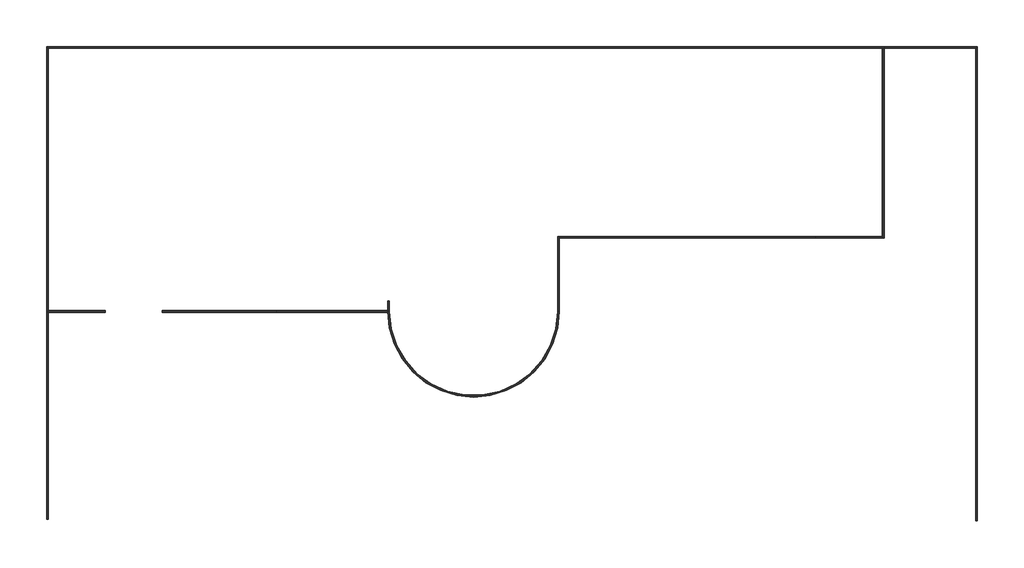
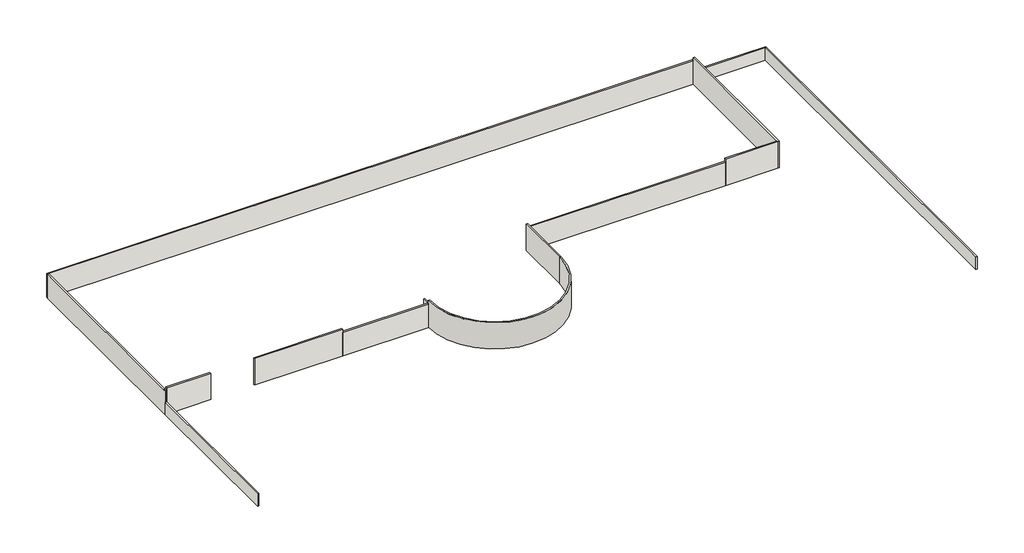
# One storey, incomplete: 14 walls.
"""IFC4 building model written with IfcOpenShell, lengths in millimetres."""

from ifc_helpers import new_model, si_unit, frame, origin, place, context, project, spatial, polyline, circle_curve, outline, extrude, faceted_brep, element, save
from ifc_brep_helpers import plane_surface, cylinder_surface, revolved_surface, advanced_brep

model = new_model("IFC4")

# Units and contexts
model_context = context("Model", 3, world=origin())
ifc_project = project(units=[si_unit("LENGTHUNIT", "METRE", prefix="MILLI")], contexts=[model_context])

# Site, building, storey
site = spatial("IfcSite", under=ifc_project)
building = spatial("IfcBuilding", under=site)
storey = spatial("IfcBuildingStorey", under=building, Name="a-t fdn", Elevation=-5638.8)

# Walls
placement = place(None, origin())
element("IfcWall", 1, ObjectType="Generic - 12\"", at=placement, inside=storey, context=model_context, shape_type="Brep", body=[
    faceted_brep([(-174759.290902, 48022.0071029, -5638.8), (-174454.490902, 48022.0071029, -5638.8), (-40647.290902, 48022.0071029, -5638.8), (-40342.490902, 48022.0071029, -5638.8), (-40342.490902, 48022.0071029, -457.2), (-40647.290902, 48022.0071029, -457.2), (-174454.490902, 48022.0071029, -457.2), (-174759.290902, 48022.0071029, -457.2), (-174759.290902, 48326.8071029, -5638.8), (-174759.290902, 48326.8071029, -457.2), (-40647.290902, 48326.8071029, -457.2), (-40342.490902, 48326.8071029, -457.2), (-40342.490902, 48326.8071029, -2895.6), (-40342.490902, 48326.8071029, -5638.8)], [[[0, 1, 2, 3, 4, 5, 6, 7]], [[8, 9, 10, 11, 12, 13]], [[3, 2, 1, 0, 8, 13]], [[4, 3, 13, 12, 11]], [[0, 7, 9, 8]], [[5, 4, 11, 10]], [[7, 6, 5, 10, 9]]]),
])
element("IfcWall", 2, ObjectType="Generic - 12\"", at=placement, inside=storey, context=model_context, shape_type="Brep", body=[
    faceted_brep([(-40647.290902, 48022.0071029, -5638.8), (-40647.290902, 17846.8071029, -5638.8), (-40647.290902, 17542.0071029, -5638.8), (-40647.290902, 17542.0071029, 152.4), (-40647.290902, 17846.8071029, 152.4), (-40647.290902, 48022.0071029, 152.4), (-40342.490902, 48022.0071029, -5638.8), (-40342.490902, 48022.0071029, -457.2), (-40342.490902, 48022.0071029, 152.4), (-40342.490902, 17542.0071029, 152.4), (-40342.490902, 17542.0071029, -5638.8)], [[[0, 1, 2, 3, 4, 5]], [[6, 7, 8, 9, 10]], [[2, 1, 0, 6, 10]], [[5, 4, 3, 9, 8]], [[3, 2, 10, 9]], [[0, 5, 8, 7, 6]]]),
])
element("IfcWall", 3, ObjectType="Generic - 12\"", at=placement, inside=storey, context=model_context, shape_type="Brep", body=[
    faceted_brep([(-174759.290902, 48022.0071029, -5638.8), (-174759.290902, 5654.8071029, -5638.8), (-174759.290902, 5654.8071029, -2895.6), (-174759.290902, 5654.8071029, -152.4), (-174759.290902, 5959.6071029, -152.4), (-174759.290902, 5959.6071029, -457.2), (-174759.290902, 48022.0071029, -457.2), (-174454.490902, 48022.0071029, -5638.8), (-174454.490902, 48022.0071029, -457.2), (-174454.490902, 5959.6071029, -457.2), (-174454.490902, 5959.6071029, -152.4), (-174454.490902, 5654.8071029, -152.4), (-174454.490902, 5654.8071029, -5638.8), (-174454.490902, 5959.6071029, -5638.8)], [[[0, 1, 2, 3, 4, 5, 6]], [[7, 8, 9, 10, 11, 12, 13]], [[1, 0, 7, 13, 12]], [[3, 2, 1, 12, 11]], [[0, 6, 8, 7]], [[4, 3, 11, 10]], [[4, 10, 9, 5]], [[6, 5, 9, 8]]]),
])
element("IfcWall", 4, ObjectType="Generic - 12\"", at=placement, inside=storey, context=model_context, shape_type="Brep", body=[
    faceted_brep([(-165310.490902, 5959.6071029, -5638.8), (-174454.490902, 5959.6071029, -5638.8), (-174454.490902, 5959.6071029, -457.2), (-174454.490902, 5959.6071029, -152.4), (-174454.490902, 5959.6071029, 152.4), (-165615.290902, 5959.6071029, 152.4), (-165310.490902, 5959.6071029, 152.4), (-165310.490902, 5959.6071029, -152.4), (-165310.490902, 5654.8071029, -5638.8), (-165310.490902, 5654.8071029, -2590.8), (-165310.490902, 5654.8071029, 138.8728072), (-165310.490902, 5654.8071029, 152.4), (-174454.490902, 5654.8071029, 152.4), (-174454.490902, 5654.8071029, -152.4), (-174454.490902, 5654.8071029, -5638.8)], [[[0, 1, 2, 3, 4, 5, 6, 7]], [[8, 9, 10, 11, 12, 13, 14]], [[1, 0, 8, 14]], [[6, 5, 4, 12, 11]], [[0, 7, 6, 11, 10, 9, 8]], [[4, 3, 2, 1, 14, 13, 12]]]),
])
element("IfcWall", 5, ObjectType="Generic - 12\"", at=placement, inside=storey, context=model_context, shape_type="Brep", body=[
    faceted_brep([(-156166.490902, 5654.8071029, -5638.8), (-137878.490902, 5654.8071029, -5638.8), (-137878.490902, 5654.8071029, -2590.8), (-137878.490902, 5654.8071029, 138.8728072), (-137878.490902, 5654.8071029, 152.4), (-156166.490902, 5654.8071029, 152.4), (-156166.490902, 5959.6071029, -5638.8), (-156166.490902, 5959.6071029, -2590.8), (-156166.490902, 5959.6071029, 152.4), (-137878.490902, 5959.6071029, 152.4), (-137878.490902, 5959.6071029, -457.2), (-137878.490902, 5959.6071029, -5638.8)], [[[0, 1, 2, 3, 4, 5]], [[6, 7, 8, 9, 10, 11]], [[1, 0, 6, 11]], [[5, 4, 9, 8]], [[4, 3, 2, 1, 11, 10, 9]], [[0, 5, 8, 7, 6]]]),
])
element("IfcWall", 6, ObjectType="Generic - 12\"", at=placement, inside=storey, context=model_context, shape_type="SweptSolid", body=[
    extrude(outline(polyline([(-174454.490902, 5654.8071029), (-174454.490902, -27568.3928971), (-174759.290902, -27568.3928971), (-174759.290902, 5654.8071029), (-174454.490902, 5654.8071029)])), frame((0.0, 0.0, -5638.8), z_axis=(0.0, 0.0, 1.0), x_axis=(1.0, 0.0, 0.0)), (0.0, 0.0, 1.0), 2743.2),
])
element("IfcWall", 7, ObjectType="Generic - 12\"", at=placement, inside=storey, context=model_context, shape_type="Brep", body=[
    faceted_brep([(-25407.290902, -27873.1928971, -5638.8), (-25407.290902, 48022.0071029, -5638.8), (-25407.290902, 48022.0071029, -2895.6), (-25407.290902, -27873.1928971, -2895.6), (-25712.090902, -27873.1928971, -5638.8), (-25712.090902, -27873.1928971, -2895.6), (-25712.090902, -27568.3928971, -2895.6), (-25712.090902, 48022.0071029, -2895.6), (-25712.090902, 48022.0071029, -5638.8), (-25712.090902, -27568.3928971, -5638.8)], [[[0, 1, 2, 3]], [[4, 5, 6, 7, 8, 9]], [[1, 0, 4, 9, 8]], [[0, 3, 5, 4]], [[2, 1, 8, 7]], [[3, 2, 7, 6, 5]]]),
])
element("IfcWall", 8, ObjectType="Generic - 12\"", at=placement, inside=storey, context=model_context, shape_type="Brep", body=[
    faceted_brep([(-137878.490902, 5654.8071029, -5638.8), (-120047.690902, 5654.8071029, -5638.8), (-120047.690902, 5654.8071029, -457.2), (-137878.490902, 5654.8071029, -457.2), (-137878.490902, 5959.6071029, -5638.8), (-137878.490902, 5959.6071029, -457.2), (-120047.690902, 5959.6071029, -457.2), (-120047.690902, 5959.6071029, -5638.8), (-120047.690902, 5807.2071029, -5638.8), (-120047.690902, 5807.2071029, -457.2)], [[[0, 1, 2, 3]], [[4, 5, 6, 7]], [[1, 0, 4, 7, 8]], [[0, 3, 5, 4]], [[2, 1, 8, 7, 6, 9]], [[3, 2, 9, 6, 5]]]),
])
element("IfcWall", 9, ObjectType="Generic - 12\"", at=placement, inside=storey, context=model_context, shape_type="Brep", body=[
    faceted_brep([(-119742.890902, 5807.2071029, -5638.8), (-119742.890902, 7483.6071029, -5638.8), (-119742.890902, 7483.6071029, -457.2), (-119742.890902, 5807.2071029, -457.2), (-120047.690902, 5807.2071029, -5638.8), (-120047.690902, 5807.2071029, -457.2), (-120047.690902, 5959.6071029, -457.2), (-120047.690902, 7483.6071029, -457.2), (-120047.690902, 7483.6071029, -5638.8), (-120047.690902, 5959.6071029, -5638.8)], [[[0, 1, 2, 3]], [[4, 5, 6, 7, 8, 9]], [[1, 0, 4, 9, 8]], [[2, 1, 8, 7]], [[0, 3, 5, 4]], [[3, 2, 7, 6, 5]]]),
])
element("IfcWall", 10, ObjectType="Generic - 12\"", at=placement, inside=storey, context=model_context, shape_type="SweptSolid", body=[
    extrude(outline(polyline([(-92463.290902, 17846.8071029), (-51467.690902, 17846.8071029), (-51467.690902, 17542.0071029), (-92463.290902, 17542.0071029), (-92463.290902, 17846.8071029)])), frame((0.0, 0.0, -5638.8), z_axis=(0.0, 0.0, 1.0), x_axis=(1.0, 0.0, 0.0)), (0.0, 0.0, 1.0), 5181.6),
])
element("IfcWall", 11, ObjectType="Generic - 12\"", at=placement, inside=storey, context=model_context, shape_type="Brep", body=[
    faceted_brep([(-25407.290902, 48326.8071029, -5638.8), (-40342.490902, 48326.8071029, -5638.8), (-40342.490902, 48326.8071029, -2895.6), (-25407.290902, 48326.8071029, -2895.6), (-25407.290902, 48022.0071029, -5638.8), (-25407.290902, 48022.0071029, -2895.6), (-25712.090902, 48022.0071029, -2895.6), (-40342.490902, 48022.0071029, -2895.6), (-40342.490902, 48022.0071029, -5638.8), (-25712.090902, 48022.0071029, -5638.8)], [[[0, 1, 2, 3]], [[4, 5, 6, 7, 8, 9]], [[1, 0, 4, 9, 8]], [[0, 3, 5, 4]], [[2, 1, 8, 7]], [[3, 2, 7, 6, 5]]]),
])
element("IfcWall", 12, ObjectType="a_panel enamel", at=placement, inside=storey, context=model_context, shape_type="Brep", body=[
    faceted_brep([(-40647.290902, 17846.8071029, -5638.8), (-51467.690902, 17846.8071029, -5638.8), (-51467.690902, 17846.8071029, 152.4), (-40647.290902, 17846.8071029, 152.4), (-40647.290902, 17542.0071029, -5638.8), (-40647.290902, 17542.0071029, 152.4), (-51162.890902, 17542.0071029, 152.4), (-51467.690902, 17542.0071029, 152.4), (-51467.690902, 17542.0071029, -2590.8), (-51467.690902, 17542.0071029, -5638.8)], [[[0, 1, 2, 3]], [[4, 5, 6, 7, 8, 9]], [[1, 0, 4, 9]], [[2, 1, 9, 8, 7]], [[3, 2, 7, 6, 5]], [[0, 3, 5, 4]]]),
])
element("IfcWall", 13, ObjectType="a_panel enamel", at=placement, inside=storey, context=model_context, shape_type="Brep", body=[
    faceted_brep([(-92768.090902, 17846.8071029, -5638.8), (-92768.090902, 5807.2071029, -5638.8), (-92768.090902, 5807.2071029, 152.4), (-92768.090902, 17846.8071029, 152.4), (-92463.290902, 17846.8071029, -5638.8), (-92463.290902, 17846.8071029, -457.2), (-92463.290902, 17846.8071029, 152.4), (-92463.290902, 5959.6071029, 152.4), (-92463.290902, 5807.2071029, 152.4), (-92463.290902, 5807.2071029, -5638.8), (-92463.290902, 17542.0071029, -5638.8)], [[[0, 1, 2, 3]], [[4, 5, 6, 7, 8, 9, 10]], [[1, 0, 4, 10, 9]], [[2, 1, 9, 8]], [[3, 2, 8, 7, 6]], [[0, 3, 6, 5, 4]]]),
])
element("IfcWall", 14, ObjectType="a_panel enamel", at=placement, inside=storey, context=model_context, shape_type="AdvancedBrep", body=[
    advanced_brep(
    [(-120047.690902, 5807.2071029, 152.4), (-92464.1329167, 5654.8071029, 152.4), (-92463.290902, 5807.2071029, 152.4), (-92768.090902, 5807.2071029, 152.4), (-119742.890902, 5807.2071029, 152.4), (-120047.690902, 5807.2071029, -5638.8), (-119742.890902, 5807.2071029, -5638.8), (-92768.090902, 5807.2071029, -5638.8), (-92463.290902, 5807.2071029, -5638.8), (-120047.690902, 5807.2071029, -457.2), (-119742.890902, 5807.2071029, -457.2)],
    [
        (0, 1, circle_curve(frame((-106255.490902, 5807.2071029, 152.4), z_axis=(0.0, 0.0, 1.0), x_axis=(1.0, 0.0, 0.0)), 13792.2)),
        (1, 2, circle_curve(frame((-106255.490902, 5807.2071029, 152.4), z_axis=(0.0, 0.0, 1.0), x_axis=(1.0, 0.0, 0.0)), 13792.2)),
        (2, 3),
        (3, 4, circle_curve(frame((-106255.490902, 5807.2071029, 152.4), z_axis=(0.0, 0.0, -1.0), x_axis=(1.0, 0.0, 0.0)), 13487.4)),
        (4, 0),
        (5, 6),
        (6, 7, circle_curve(frame((-106255.490902, 5807.2071029, -5638.8), z_axis=(0.0, 0.0, 1.0), x_axis=(1.0, 0.0, 0.0)), 13487.4)),
        (7, 8),
        (8, 5, circle_curve(frame((-106255.490902, 5807.2071029, -5638.8), z_axis=(0.0, 0.0, -1.0), x_axis=(1.0, 0.0, 0.0)), 13792.2)),
        (0, 9),
        (9, 5),
        (8, 2),
        (7, 3),
        (6, 10),
        (10, 4),
    ],
    [
        plane_surface(frame((-92463.290902, 5807.2071029, 152.4), z_axis=(0.0, 0.0, 1.0), x_axis=(0.0, 1.0, 0.0))),
        plane_surface(frame((-92463.290902, 5807.2071029, -5638.8), z_axis=(0.0, 0.0, -1.0), x_axis=(0.0, -1.0, 0.0))),
        cylinder_surface(frame((-106255.490902, 5807.2071029, -5638.8), z_axis=(0.0, 0.0, 1.0), x_axis=(1.0, 0.0, 0.0)), 13792.2),
        plane_surface(frame((-92463.290902, 5807.2071029, 152.4), z_axis=(0.0, 1.0, 0.0), x_axis=(0.0, 0.0, -1.0))),
        revolved_surface(polyline([(-92768.09090200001, 5807.2071029, -5638.8), (-92768.09090200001, 5807.2071029, 152.39999999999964)]), (-106255.490902, 5807.2071029, -5638.8), (0.0, 0.0, -1.0)),
        plane_surface(frame((-119742.890902, 5807.2071029, 152.4), z_axis=(0.0, 1.0, 0.0), x_axis=(0.0, 0.0, -1.0))),
    ],
    [
        (0, [[1, 2, 3, 4, 5]]),
        (1, [[6, 7, 8, 9]]),
        (2, [[-2, -1, 10, 11, -9, 12]]),
        (3, [[-3, -12, -8, 13]]),
        (4, [[-4, -13, -7, 14, 15]]),
        (5, [[-5, -15, -14, -6, -11, -10]]),
    ],
),
])

save(model, "model.ifc")
